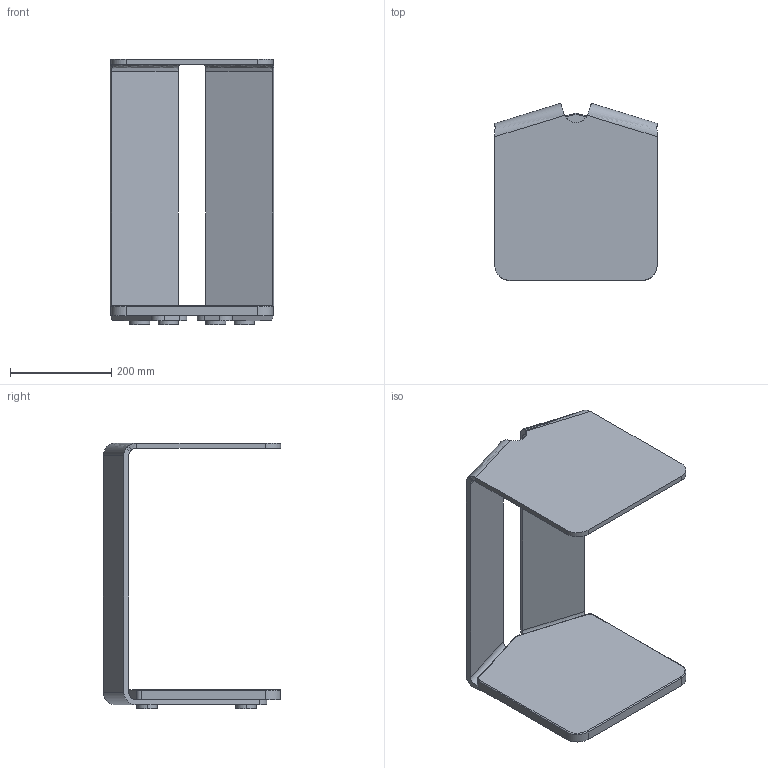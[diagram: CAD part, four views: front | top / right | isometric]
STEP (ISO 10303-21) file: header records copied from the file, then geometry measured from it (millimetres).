
FILE_DESCRIPTION(/* description */ (''),/* implementation_level */ '2;1');
FILE_NAME(/* name */ '3D_YOR~1',/* time_stamp */ '2024-04-29T12:59:38+02:00',/* author */ (''),/* organization */ (''),/* preprocessor_version */ 'ST-DEVELOPER v16.5',/* originating_system */ '',/* authorisation */ '');
FILE_SCHEMA (('AUTOMOTIVE_DESIGN'));
Length unit declared in the file: millimetre
Products named in the file (1): Document
Bounding box: 323.14 x 349.39 x 524 mm (x, y, z)
Volume: 5013345 mm3; surface area: 878965.6 mm2
Topology: 6 solids, 6 shells, 82 faces, 192 edges, 122 vertices
Faces by surface type: bspline 46, plane 36
Entity records: 3588 total; most frequent: CARTESIAN_POINT 2364, ORIENTED_EDGE 384, EDGE_CURVE 192, VERTEX_POINT 122, B_SPLINE_CURVE_WITH_KNOTS 109, ADVANCED_FACE 82, FACE_OUTER_BOUND 82, EDGE_LOOP 82
